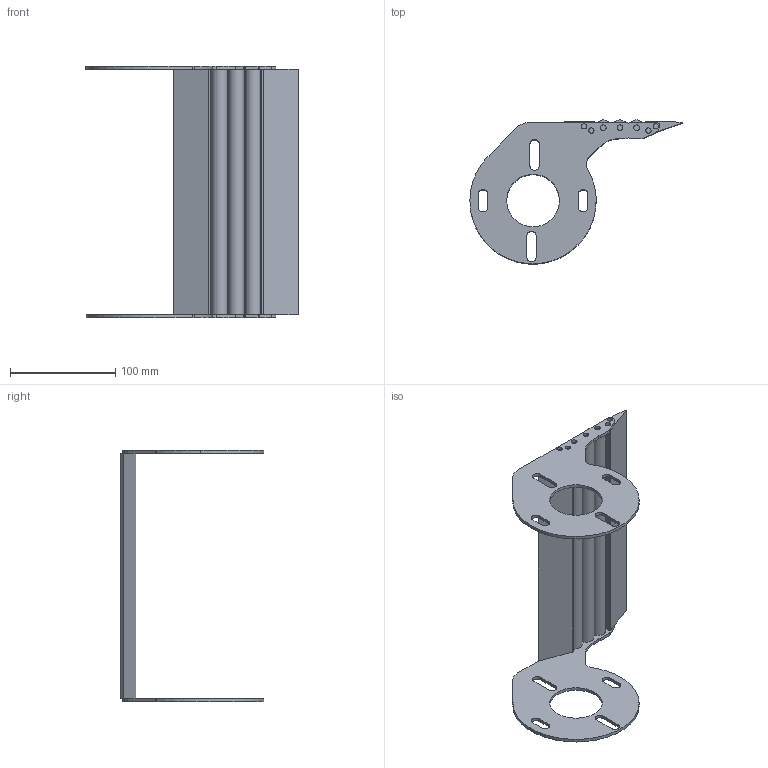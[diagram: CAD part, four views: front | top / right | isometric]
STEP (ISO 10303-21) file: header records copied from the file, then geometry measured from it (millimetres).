
FILE_DESCRIPTION (( 'STEP AP214' ), '1' );
FILE_NAME ('F2 750 TG2M.step', '2017-04-05T07:35:20', ( '' ), ( '' ), 'SwSTEP 2.0', 'SolidWorks 2015', '' );
FILE_SCHEMA (( 'AUTOMOTIVE_DESIGN' ));
Length unit declared in the file: millimetre
Products named in the file (1): F2 750 TG2M
Bounding box: 201.6 x 136.54 x 239 mm (x, y, z)
Volume: 317906.5 mm3; surface area: 122902.5 mm2
Topology: 1 solids, 1 shells, 157 faces, 427 edges, 278 vertices
Faces by surface type: plane 84, cylinder 73
Entity records: 6598 total; most frequent: DIRECTION 901, CARTESIAN_POINT 863, ORIENTED_EDGE 854, EDGE_CURVE 427, AXIS2_PLACEMENT_3D 316, VERTEX_POINT 278, LINE 269, VECTOR 269
